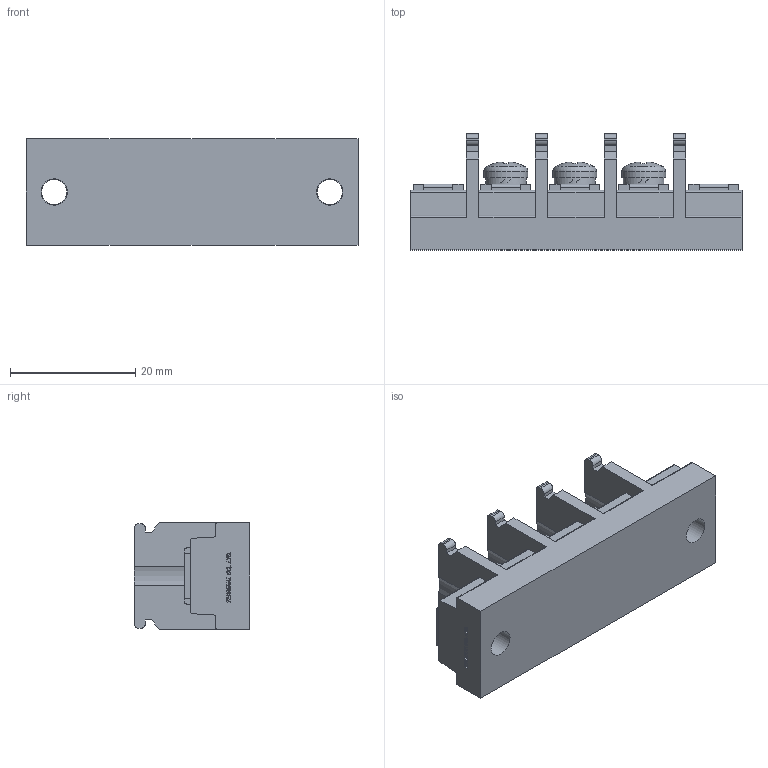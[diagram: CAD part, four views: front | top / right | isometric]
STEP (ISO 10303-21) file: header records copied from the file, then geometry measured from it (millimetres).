
FILE_DESCRIPTION(/* description */ ('Alibre Inc.'),/* implementation_level */ '2;1');
FILE_NAME(/* name */ 'export0',/* time_stamp */ '2015-10-19T19:20:27+09:00',/* author */ (''),/* organization */ (''),/* preprocessor_version */ 'ST-DEVELOPER v14',/* originating_system */ 'Alibre',/* authorisation */ '');
FILE_SCHEMA (('CONFIG_CONTROL_DESIGN'));
Length unit declared in the file: centimetre
Products named in the file (1): ID_1
Bounding box: 53 x 18.5 x 17 mm (x, y, z)
Volume: 9173.8 mm3; surface area: 5303.6 mm2
Topology: 1 solids, 1 shells, 654 faces, 1799 edges, 1197 vertices
Faces by surface type: plane 462, bspline 104, cylinder 67, cone 12, torus 6, sphere 3
Full cylindrical faces by diameter (mm): 4 x5, 4.2 x2, 6.5 x3, 7 x3
Entity records: 20192 total; most frequent: CARTESIAN_POINT 4628, ORIENTED_EDGE 3544, DIRECTION 2384, EDGE_CURVE 1772, VECTOR 1312, LINE 1312, VERTEX_POINT 1186, AXIS2_PLACEMENT_3D 762
